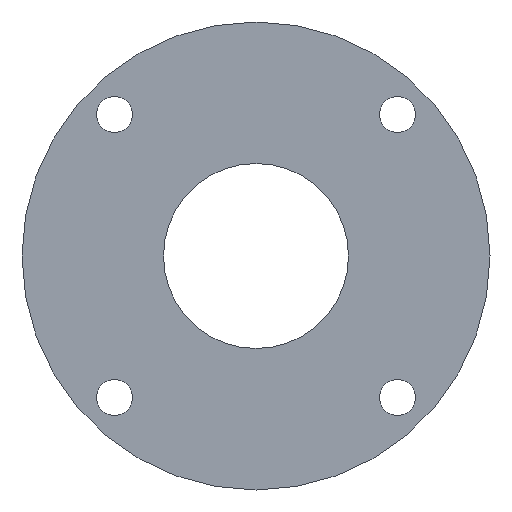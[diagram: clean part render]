
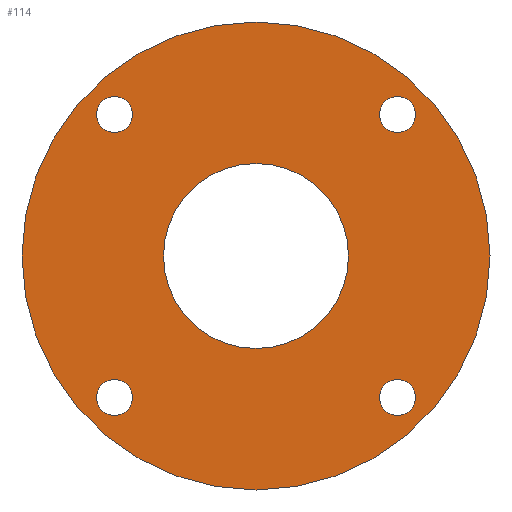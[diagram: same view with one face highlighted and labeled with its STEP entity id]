
A CAD part, front view. The second image highlights one B-rep face of the part: STEP entity #114.
In plain terms, the highlighted planar face has unit normal (0, -1, 0).
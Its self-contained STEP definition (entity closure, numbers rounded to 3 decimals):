
#31 = VERTEX_POINT('',#32);
#32 = CARTESIAN_POINT('',(0.,-72.,43.));
#38 = EDGE_CURVE('',#31,#31,#39,.T.);
#39 = CIRCLE('',#40,43.);
#40 = AXIS2_PLACEMENT_3D('',#41,#42,#43);
#41 = CARTESIAN_POINT('',(0.,-72.,0.));
#42 = DIRECTION('',(0.,1.,0.));
#43 = DIRECTION('',(0.,-0.,1.));
#114 = ADVANCED_FACE('',(#115,#118,#129,#140,#151,#162),#173,.F.);
#115 = FACE_BOUND('',#116,.F.);
#116 = EDGE_LOOP('',(#117));
#117 = ORIENTED_EDGE('',*,*,#38,.T.);
#118 = FACE_BOUND('',#119,.F.);
#119 = EDGE_LOOP('',(#120));
#120 = ORIENTED_EDGE('',*,*,#121,.F.);
#121 = EDGE_CURVE('',#122,#122,#124,.T.);
#122 = VERTEX_POINT('',#123);
#123 = CARTESIAN_POINT('',(-26.,-72.,-22.7));
#124 = CIRCLE('',#125,3.3);
#125 = AXIS2_PLACEMENT_3D('',#126,#127,#128);
#126 = CARTESIAN_POINT('',(-26.,-72.,-26.));
#127 = DIRECTION('',(0.,1.,0.));
#128 = DIRECTION('',(0.,-0.,1.));
#129 = FACE_BOUND('',#130,.F.);
#130 = EDGE_LOOP('',(#131));
#131 = ORIENTED_EDGE('',*,*,#132,.F.);
#132 = EDGE_CURVE('',#133,#133,#135,.T.);
#133 = VERTEX_POINT('',#134);
#134 = CARTESIAN_POINT('',(-26.,-72.,29.3));
#135 = CIRCLE('',#136,3.3);
#136 = AXIS2_PLACEMENT_3D('',#137,#138,#139);
#137 = CARTESIAN_POINT('',(-26.,-72.,26.));
#138 = DIRECTION('',(0.,1.,0.));
#139 = DIRECTION('',(0.,-0.,1.));
#140 = FACE_BOUND('',#141,.F.);
#141 = EDGE_LOOP('',(#142));
#142 = ORIENTED_EDGE('',*,*,#143,.F.);
#143 = EDGE_CURVE('',#144,#144,#146,.T.);
#144 = VERTEX_POINT('',#145);
#145 = CARTESIAN_POINT('',(26.,-72.,-22.7));
#146 = CIRCLE('',#147,3.3);
#147 = AXIS2_PLACEMENT_3D('',#148,#149,#150);
#148 = CARTESIAN_POINT('',(26.,-72.,-26.));
#149 = DIRECTION('',(0.,1.,0.));
#150 = DIRECTION('',(0.,-0.,1.));
#151 = FACE_BOUND('',#152,.F.);
#152 = EDGE_LOOP('',(#153));
#153 = ORIENTED_EDGE('',*,*,#154,.F.);
#154 = EDGE_CURVE('',#155,#155,#157,.T.);
#155 = VERTEX_POINT('',#156);
#156 = CARTESIAN_POINT('',(0.,-72.,17.));
#157 = CIRCLE('',#158,17.);
#158 = AXIS2_PLACEMENT_3D('',#159,#160,#161);
#159 = CARTESIAN_POINT('',(0.,-72.,0.));
#160 = DIRECTION('',(0.,1.,0.));
#161 = DIRECTION('',(0.,-0.,1.));
#162 = FACE_BOUND('',#163,.F.);
#163 = EDGE_LOOP('',(#164));
#164 = ORIENTED_EDGE('',*,*,#165,.F.);
#165 = EDGE_CURVE('',#166,#166,#168,.T.);
#166 = VERTEX_POINT('',#167);
#167 = CARTESIAN_POINT('',(26.,-72.,29.3));
#168 = CIRCLE('',#169,3.3);
#169 = AXIS2_PLACEMENT_3D('',#170,#171,#172);
#170 = CARTESIAN_POINT('',(26.,-72.,26.));
#171 = DIRECTION('',(0.,1.,0.));
#172 = DIRECTION('',(0.,-0.,1.));
#173 = PLANE('',#174);
#174 = AXIS2_PLACEMENT_3D('',#175,#176,#177);
#175 = CARTESIAN_POINT('',(0.,-72.,0.));
#176 = DIRECTION('',(0.,1.,0.));
#177 = DIRECTION('',(0.,-0.,1.));
